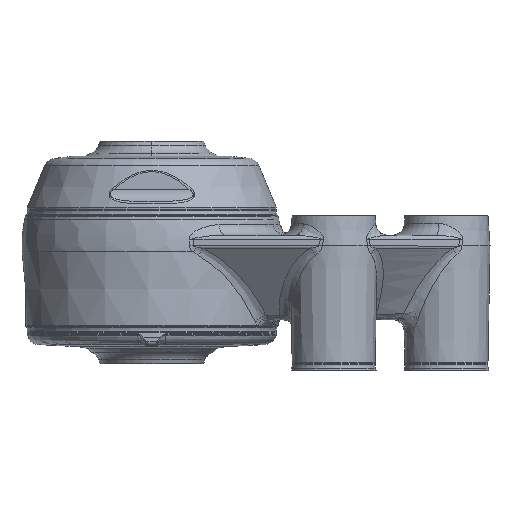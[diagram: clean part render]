
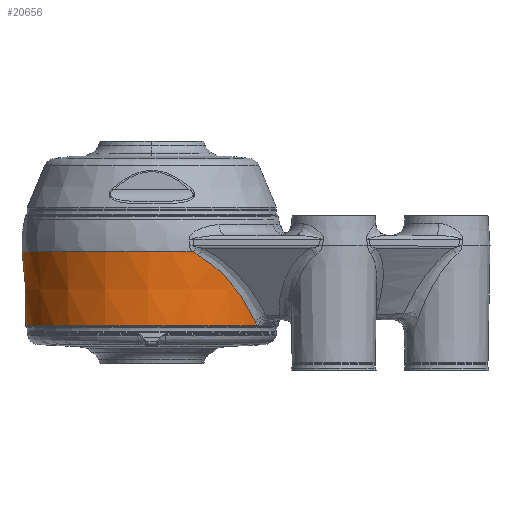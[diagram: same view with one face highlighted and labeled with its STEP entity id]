
A CAD part, left-side view. The second image highlights one B-rep face of the part: STEP entity #20656.
In plain terms, the highlighted conical face has half-angle 2.646 degrees and reference radius 33 mm.
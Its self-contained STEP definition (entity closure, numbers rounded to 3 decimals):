
#334 = CIRCLE ( 'NONE', #33251, 32.807 ) ;
#1147 = B_SPLINE_CURVE_WITH_KNOTS ( 'NONE', 3,
 ( #31608, #26274, #32494, #13842, #29991, #33185 ),
 .UNSPECIFIED., .F., .F.,
 ( 4, 2, 4 ),
 ( 0., 0.001, 0.002 ),
 .UNSPECIFIED. ) ;
#1509 = FACE_OUTER_BOUND ( 'NONE', #16712, .T. ) ;
#2060 = CARTESIAN_POINT ( 'NONE',  ( -17.471, -26.74, -13.9 ) ) ;
#2530 = CARTESIAN_POINT ( 'NONE',  ( 17.471, -26.74, -13.9 ) ) ;
#2730 = CARTESIAN_POINT ( 'NONE',  ( 28.976, -15.175, 1.703 ) ) ;
#2929 = CARTESIAN_POINT ( 'NONE',  ( -23.98, -21.766, -5.142 ) ) ;
#3888 = DIRECTION ( 'NONE',  ( 0., 0., 1. ) ) ;
#4007 = EDGE_CURVE ( 'NONE', #32779, #18860, #13227, .T. ) ;
#4777 = CARTESIAN_POINT ( 'NONE',  ( 0., 32.807, 4.828 ) ) ;
#4908 = DIRECTION ( 'NONE',  ( 0., 1., 0. ) ) ;
#5047 = CARTESIAN_POINT ( 'NONE',  ( 20.589, -24.713, -9.793 ) ) ;
#5053 = EDGE_CURVE ( 'NONE', #6468, #16644, #334, .T. ) ;
#5085 = CARTESIAN_POINT ( 'NONE',  ( 18.222, -26.282, -13.044 ) ) ;
#5179 = CARTESIAN_POINT ( 'NONE',  ( -31.089, -10.477, 4.828 ) ) ;
#5591 = CARTESIAN_POINT ( 'NONE',  ( -19.417, -25.546, -11.402 ) ) ;
#6468 = VERTEX_POINT ( 'NONE', #5179 ) ;
#6585 = CARTESIAN_POINT ( 'NONE',  ( -30.566, -11.798, 3.878 ) ) ;
#6710 = DIRECTION ( 'NONE',  ( 0., 1., 0. ) ) ;
#6806 = CARTESIAN_POINT ( 'NONE',  ( -29.83, -13.574, 2.872 ) ) ;
#7187 = CARTESIAN_POINT ( 'NONE',  ( 0., 0., 9. ) ) ;
#7263 = ORIENTED_EDGE ( 'NONE', *, *, #18085, .T. ) ;
#7884 = CARTESIAN_POINT ( 'NONE',  ( 29.83, -13.574, 2.872 ) ) ;
#7922 = CARTESIAN_POINT ( 'NONE',  ( 30.566, -11.798, 3.878 ) ) ;
#7978 = VERTEX_POINT ( 'NONE', #2530 ) ;
#9343 = DIRECTION ( 'NONE',  ( 0., 1., 0. ) ) ;
#9627 = AXIS2_PLACEMENT_3D ( 'NONE', #22680, #17691, #9343 ) ;
#9664 = CARTESIAN_POINT ( 'NONE',  ( 0., 31.942, -13.9 ) ) ;
#10095 = B_SPLINE_CURVE_WITH_KNOTS ( 'NONE', 3,
 ( #5085, #24097, #10580, #21446 ),
 .UNSPECIFIED., .F., .F.,
 ( 4, 4 ),
 ( 0., 0.001 ),
 .UNSPECIFIED. ) ;
#10170 = ORIENTED_EDGE ( 'NONE', *, *, #18041, .T. ) ;
#10580 = CARTESIAN_POINT ( 'NONE',  ( 17.742, -26.577, -13.643 ) ) ;
#11092 = CARTESIAN_POINT ( 'NONE',  ( -27.095, -18.111, -0.873 ) ) ;
#12858 = CARTESIAN_POINT ( 'NONE',  ( 18.222, -26.282, -13.044 ) ) ;
#12890 = CARTESIAN_POINT ( 'NONE',  ( -17.742, -26.577, -13.643 ) ) ;
#13227 = B_SPLINE_CURVE_WITH_KNOTS ( 'NONE', 3,
 ( #14457, #17293, #23328, #28468, #28117, #25800 ),
 .UNSPECIFIED., .F., .F.,
 ( 4, 2, 4 ),
 ( 0., 0.001, 0.002 ),
 .UNSPECIFIED. ) ;
#13275 = B_SPLINE_CURVE_WITH_KNOTS ( 'NONE', 3,
 ( #21784, #5591, #16430, #27255, #2929, #32766, #11092, #16610, #6806, #23343 ),
 .UNSPECIFIED., .F., .F.,
 ( 4, 2, 2, 2, 4 ),
 ( 0., 0.006, 0.013, 0.019, 0.026 ),
 .UNSPECIFIED. ) ;
#13733 = CIRCLE ( 'NONE', #30180, 31.942 ) ;
#13842 = CARTESIAN_POINT ( 'NONE',  ( -30.93, -10.89, 4.466 ) ) ;
#14457 = CARTESIAN_POINT ( 'NONE',  ( 31.089, -10.477, 4.828 ) ) ;
#15375 = DIRECTION ( 'NONE',  ( 0., -1., 0. ) ) ;
#15706 = CONICAL_SURFACE ( 'NONE', #27581, 33., 0.046 ) ;
#16430 = CARTESIAN_POINT ( 'NONE',  ( -20.589, -24.713, -9.793 ) ) ;
#16473 = CARTESIAN_POINT ( 'NONE',  ( -17.471, -26.74, -13.9 ) ) ;
#16610 = CARTESIAN_POINT ( 'NONE',  ( -28.976, -15.174, 1.704 ) ) ;
#16644 = VERTEX_POINT ( 'NONE', #4777 ) ;
#16712 = EDGE_LOOP ( 'NONE', ( #23520, #31197, #10170, #33525, #23782, #24050, #7263, #19083, #30573, #29358 ) ) ;
#17293 = CARTESIAN_POINT ( 'NONE',  ( 31.013, -10.676, 4.636 ) ) ;
#17691 = DIRECTION ( 'NONE',  ( 0., 0., 1. ) ) ;
#18041 = EDGE_CURVE ( 'NONE', #27779, #34923, #18637, .T. ) ;
#18085 = EDGE_CURVE ( 'NONE', #16644, #32779, #32305, .T. ) ;
#18207 = DIRECTION ( 'NONE',  ( 0., 0., 1. ) ) ;
#18228 = CARTESIAN_POINT ( 'NONE',  ( -18.222, -26.282, -13.044 ) ) ;
#18386 = CARTESIAN_POINT ( 'NONE',  ( 22.877, -22.818, -6.655 ) ) ;
#18555 = CARTESIAN_POINT ( 'NONE',  ( 27.095, -18.111, -0.873 ) ) ;
#18637 = B_SPLINE_CURVE_WITH_KNOTS ( 'NONE', 3,
 ( #2060, #12890, #29575, #18228 ),
 .UNSPECIFIED., .F., .F.,
 ( 4, 4 ),
 ( 0.005, 0.006 ),
 .UNSPECIFIED. ) ;
#18765 = DIRECTION ( 'NONE',  ( 0., 0., -1. ) ) ;
#18860 = VERTEX_POINT ( 'NONE', #7922 ) ;
#19083 = ORIENTED_EDGE ( 'NONE', *, *, #4007, .T. ) ;
#19184 = EDGE_CURVE ( 'NONE', #25941, #7978, #10095, .T. ) ;
#19376 = B_SPLINE_CURVE_WITH_KNOTS ( 'NONE', 3,
 ( #34710, #7884, #2730, #18555, #24229, #35051, #18386, #5047, #24061, #12858 ),
 .UNSPECIFIED., .F., .F.,
 ( 4, 2, 2, 2, 4 ),
 ( 0., 0.006, 0.013, 0.019, 0.026 ),
 .UNSPECIFIED. ) ;
#19423 = VERTEX_POINT ( 'NONE', #9664 ) ;
#19983 = EDGE_CURVE ( 'NONE', #18860, #25941, #19376, .T. ) ;
#20411 = CARTESIAN_POINT ( 'NONE',  ( 0., 0., -13.9 ) ) ;
#20656 = ADVANCED_FACE ( 'NONE', ( #1509 ), #15706, .T. ) ;
#21213 = CARTESIAN_POINT ( 'NONE',  ( 18.222, -26.282, -13.044 ) ) ;
#21446 = CARTESIAN_POINT ( 'NONE',  ( 17.471, -26.74, -13.9 ) ) ;
#21784 = CARTESIAN_POINT ( 'NONE',  ( -18.222, -26.282, -13.044 ) ) ;
#21867 = CARTESIAN_POINT ( 'NONE',  ( 31.089, -10.477, 4.828 ) ) ;
#22248 = CARTESIAN_POINT ( 'NONE',  ( 0., 0., 4.828 ) ) ;
#22680 = CARTESIAN_POINT ( 'NONE',  ( 0., 0., -13.9 ) ) ;
#22783 = EDGE_CURVE ( 'NONE', #7978, #19423, #13733, .T. ) ;
#23328 = CARTESIAN_POINT ( 'NONE',  ( 30.93, -10.89, 4.466 ) ) ;
#23343 = CARTESIAN_POINT ( 'NONE',  ( -30.566, -11.798, 3.878 ) ) ;
#23520 = ORIENTED_EDGE ( 'NONE', *, *, #22783, .T. ) ;
#23782 = ORIENTED_EDGE ( 'NONE', *, *, #30156, .T. ) ;
#24050 = ORIENTED_EDGE ( 'NONE', *, *, #5053, .T. ) ;
#24061 = CARTESIAN_POINT ( 'NONE',  ( 19.417, -25.546, -11.402 ) ) ;
#24097 = CARTESIAN_POINT ( 'NONE',  ( 17.993, -26.424, -13.359 ) ) ;
#24229 = CARTESIAN_POINT ( 'NONE',  ( 26.089, -19.412, -2.251 ) ) ;
#25099 = VERTEX_POINT ( 'NONE', #6585 ) ;
#25800 = CARTESIAN_POINT ( 'NONE',  ( 30.566, -11.798, 3.878 ) ) ;
#25811 = EDGE_CURVE ( 'NONE', #34923, #25099, #13275, .T. ) ;
#25941 = VERTEX_POINT ( 'NONE', #21213 ) ;
#26050 = CIRCLE ( 'NONE', #9627, 31.942 ) ;
#26274 = CARTESIAN_POINT ( 'NONE',  ( -30.663, -11.563, 4.011 ) ) ;
#27255 = CARTESIAN_POINT ( 'NONE',  ( -22.877, -22.818, -6.655 ) ) ;
#27555 = DIRECTION ( 'NONE',  ( 0., 0., -1. ) ) ;
#27581 = AXIS2_PLACEMENT_3D ( 'NONE', #7187, #18207, #15375 ) ;
#27779 = VERTEX_POINT ( 'NONE', #16473 ) ;
#28025 = CARTESIAN_POINT ( 'NONE',  ( -18.222, -26.282, -13.044 ) ) ;
#28117 = CARTESIAN_POINT ( 'NONE',  ( 30.663, -11.563, 4.011 ) ) ;
#28339 = AXIS2_PLACEMENT_3D ( 'NONE', #32245, #18765, #4908 ) ;
#28468 = CARTESIAN_POINT ( 'NONE',  ( 30.755, -11.334, 4.154 ) ) ;
#29358 = ORIENTED_EDGE ( 'NONE', *, *, #19184, .T. ) ;
#29575 = CARTESIAN_POINT ( 'NONE',  ( -17.995, -26.422, -13.356 ) ) ;
#29991 = CARTESIAN_POINT ( 'NONE',  ( -31.013, -10.676, 4.636 ) ) ;
#30156 = EDGE_CURVE ( 'NONE', #25099, #6468, #1147, .T. ) ;
#30180 = AXIS2_PLACEMENT_3D ( 'NONE', #20411, #3888, #6710 ) ;
#30573 = ORIENTED_EDGE ( 'NONE', *, *, #19983, .T. ) ;
#31197 = ORIENTED_EDGE ( 'NONE', *, *, #32120, .T. ) ;
#31608 = CARTESIAN_POINT ( 'NONE',  ( -30.566, -11.798, 3.878 ) ) ;
#32120 = EDGE_CURVE ( 'NONE', #19423, #27779, #26050, .T. ) ;
#32245 = CARTESIAN_POINT ( 'NONE',  ( 0., 0., 4.828 ) ) ;
#32305 = CIRCLE ( 'NONE', #28339, 32.807 ) ;
#32494 = CARTESIAN_POINT ( 'NONE',  ( -30.755, -11.334, 4.154 ) ) ;
#32766 = CARTESIAN_POINT ( 'NONE',  ( -26.089, -19.412, -2.251 ) ) ;
#32779 = VERTEX_POINT ( 'NONE', #21867 ) ;
#33070 = DIRECTION ( 'NONE',  ( 0., 1., 0. ) ) ;
#33185 = CARTESIAN_POINT ( 'NONE',  ( -31.089, -10.477, 4.828 ) ) ;
#33251 = AXIS2_PLACEMENT_3D ( 'NONE', #22248, #27555, #33070 ) ;
#33525 = ORIENTED_EDGE ( 'NONE', *, *, #25811, .T. ) ;
#34710 = CARTESIAN_POINT ( 'NONE',  ( 30.566, -11.798, 3.878 ) ) ;
#34923 = VERTEX_POINT ( 'NONE', #28025 ) ;
#35051 = CARTESIAN_POINT ( 'NONE',  ( 23.98, -21.766, -5.142 ) ) ;
